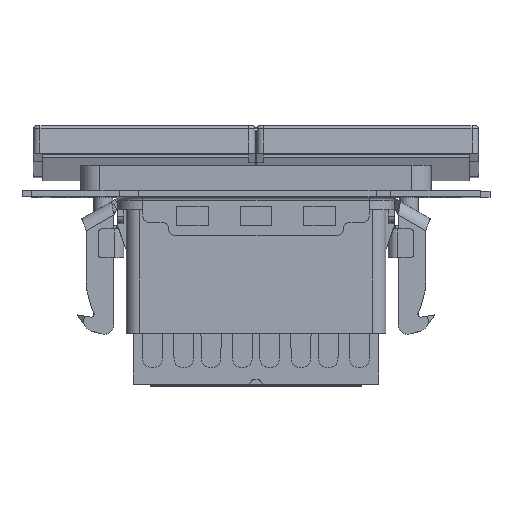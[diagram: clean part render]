
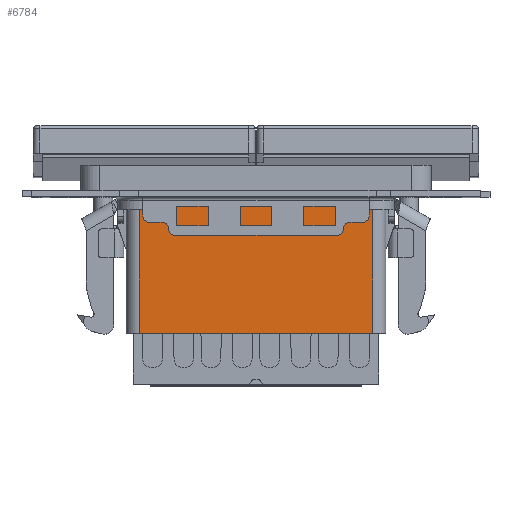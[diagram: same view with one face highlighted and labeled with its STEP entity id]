
A CAD part, top view. The second image highlights one B-rep face of the part: STEP entity #6784.
In plain terms, the highlighted planar face has unit normal (0, 0, 1).
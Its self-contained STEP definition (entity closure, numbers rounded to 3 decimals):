
#6671 = FACE_OUTER_BOUND ( 'NONE', #33277, .T. ) ;
#6784 = ADVANCED_FACE ( 'NONE', ( #6671 ), #58898, .F. ) ;
#8837 = LINE ( 'NONE', #65929, #71139 ) ;
#9472 = VECTOR ( 'NONE', #33904, 1000. ) ;
#13964 = LINE ( 'NONE', #30402, #36647 ) ;
#14345 = DIRECTION ( 'NONE',  ( 1., 0., 0. ) ) ;
#16050 = DIRECTION ( 'NONE',  ( 1., 0., 0. ) ) ;
#16744 = LINE ( 'NONE', #27944, #9472 ) ;
#17493 = CARTESIAN_POINT ( 'NONE',  ( 28.59, -6.874, 4.029 ) ) ;
#17863 = AXIS2_PLACEMENT_3D ( 'NONE', #29391, #43535, #37237 ) ;
#21254 = VERTEX_POINT ( 'NONE', #53510 ) ;
#21874 = EDGE_CURVE ( 'NONE', #23147, #64652, #49294, .T. ) ;
#23147 = VERTEX_POINT ( 'NONE', #57967 ) ;
#26652 = ORIENTED_EDGE ( 'NONE', *, *, #66364, .T. ) ;
#27944 = CARTESIAN_POINT ( 'NONE',  ( 28.59, 15.326, 4.029 ) ) ;
#29391 = CARTESIAN_POINT ( 'NONE',  ( 29.188, 15.326, 4.029 ) ) ;
#29657 = VECTOR ( 'NONE', #16050, 1000. ) ;
#30402 = CARTESIAN_POINT ( 'NONE',  ( 27.39, 15.526, 4.029 ) ) ;
#33277 = EDGE_LOOP ( 'NONE', ( #72537, #57546, #37976, #26652 ) ) ;
#33904 = DIRECTION ( 'NONE',  ( 0., 1., 0. ) ) ;
#36647 = VECTOR ( 'NONE', #14345, 1000. ) ;
#37179 = EDGE_CURVE ( 'NONE', #53235, #21254, #13964, .T. ) ;
#37237 = DIRECTION ( 'NONE',  ( -1., 0., 0. ) ) ;
#37976 = ORIENTED_EDGE ( 'NONE', *, *, #21874, .T. ) ;
#43535 = DIRECTION ( 'NONE',  ( 0., 0., -1. ) ) ;
#43664 = CARTESIAN_POINT ( 'NONE',  ( 29.188, -6.874, 4.029 ) ) ;
#49294 = LINE ( 'NONE', #43664, #29657 ) ;
#49469 = DIRECTION ( 'NONE',  ( 0., -1., 0. ) ) ;
#53235 = VERTEX_POINT ( 'NONE', #54853 ) ;
#53510 = CARTESIAN_POINT ( 'NONE',  ( 28.59, 15.526, 4.029 ) ) ;
#54853 = CARTESIAN_POINT ( 'NONE',  ( -8.01, 15.526, 4.029 ) ) ;
#57546 = ORIENTED_EDGE ( 'NONE', *, *, #60979, .T. ) ;
#57967 = CARTESIAN_POINT ( 'NONE',  ( -8.01, -6.874, 4.029 ) ) ;
#58898 = PLANE ( 'NONE',  #17863 ) ;
#60979 = EDGE_CURVE ( 'NONE', #53235, #23147, #8837, .T. ) ;
#64652 = VERTEX_POINT ( 'NONE', #17493 ) ;
#65929 = CARTESIAN_POINT ( 'NONE',  ( -8.01, 15.326, 4.029 ) ) ;
#66364 = EDGE_CURVE ( 'NONE', #64652, #21254, #16744, .T. ) ;
#71139 = VECTOR ( 'NONE', #49469, 1000. ) ;
#72537 = ORIENTED_EDGE ( 'NONE', *, *, #37179, .F. ) ;
